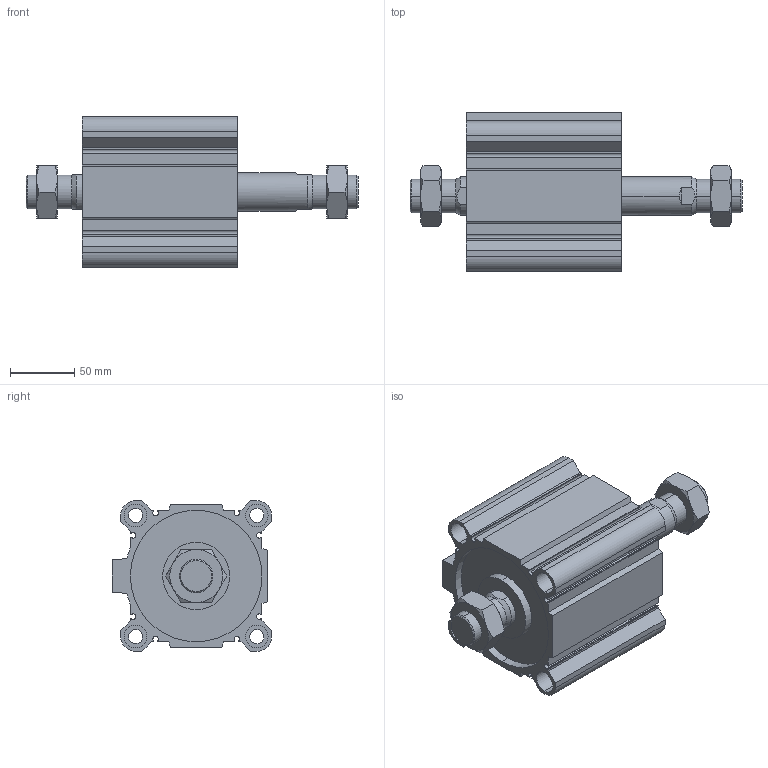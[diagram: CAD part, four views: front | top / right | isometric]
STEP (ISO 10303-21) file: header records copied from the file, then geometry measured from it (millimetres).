
FILE_DESCRIPTION (( 'STEP AP203' ), '1' );
FILE_NAME ('CCMB100-50M-P.STEP', '2020-08-10T12:00:29', ( '' ), ( '' ), 'SwSTEP 2.0', 'SolidWorks 2019', '' );
FILE_SCHEMA (( 'CONFIG_CONTROL_DESIGN' ));
Length unit declared in the file: millimetre
Products named in the file (1): CCMB100-50M-P
Bounding box: 257.5 x 123.5 x 117 mm (x, y, z)
Volume: 1071040.7 mm3; surface area: 226168.4 mm2
Topology: 4 solids, 4 shells, 230 faces, 568 edges, 364 vertices
Faces by surface type: plane 106, cylinder 80, cone 44
Entity records: 7879 total; most frequent: CARTESIAN_POINT 2279, DIRECTION 1166, ORIENTED_EDGE 1136, EDGE_CURVE 568, AXIS2_PLACEMENT_3D 431, VERTEX_POINT 364, LINE 304, VECTOR 304
